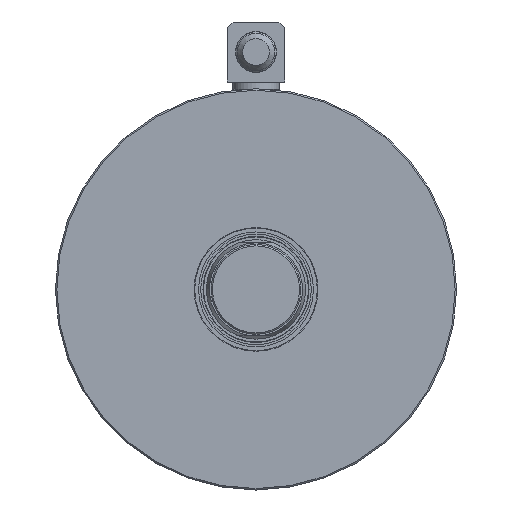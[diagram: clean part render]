
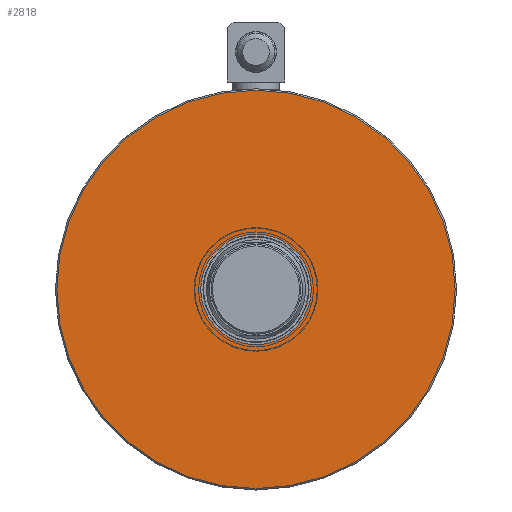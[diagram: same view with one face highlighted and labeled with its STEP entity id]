
A CAD part, left-side view. The second image highlights one B-rep face of the part: STEP entity #2818.
In plain terms, the highlighted planar face has unit normal (-1, 0, 0).
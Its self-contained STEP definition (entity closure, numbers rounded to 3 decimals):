
#129=FACE_BOUND('',#525,.T.);
#192=PLANE('',#3110);
#324=FACE_OUTER_BOUND('',#524,.T.);
#524=EDGE_LOOP('',(#2097));
#525=EDGE_LOOP('',(#2098));
#1048=CIRCLE('',#3111,70.2);
#1049=CIRCLE('',#3112,19.5);
#1247=VERTEX_POINT('',#4639);
#1248=VERTEX_POINT('',#4641);
#1548=EDGE_CURVE('',#1247,#1247,#1048,.T.);
#1549=EDGE_CURVE('',#1248,#1248,#1049,.T.);
#2097=ORIENTED_EDGE('',*,*,#1548,.F.);
#2098=ORIENTED_EDGE('',*,*,#1549,.T.);
#2818=ADVANCED_FACE('',(#324,#129),#192,.F.);
#3110=AXIS2_PLACEMENT_3D('',#4638,#3722,#3723);
#3111=AXIS2_PLACEMENT_3D('',#4640,#3724,#3725);
#3112=AXIS2_PLACEMENT_3D('',#4642,#3726,#3727);
#3722=DIRECTION('center_axis',(1.,0.,0.));
#3723=DIRECTION('ref_axis',(0.,0.,1.));
#3724=DIRECTION('center_axis',(1.,0.,0.));
#3725=DIRECTION('ref_axis',(0.,1.,0.));
#3726=DIRECTION('center_axis',(1.,0.,0.));
#3727=DIRECTION('ref_axis',(0.,0.,-1.));
#4638=CARTESIAN_POINT('Origin',(-382.75,0.,0.));
#4639=CARTESIAN_POINT('',(-382.75,-70.2,0.));
#4640=CARTESIAN_POINT('Origin',(-382.75,0.,0.));
#4641=CARTESIAN_POINT('',(-382.75,0.,19.5));
#4642=CARTESIAN_POINT('Origin',(-382.75,0.,0.));
